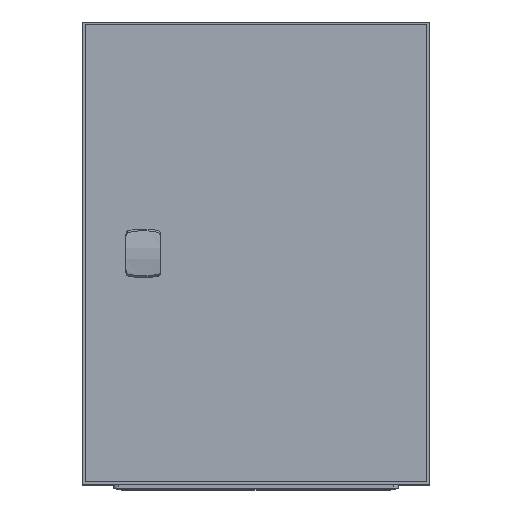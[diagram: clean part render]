
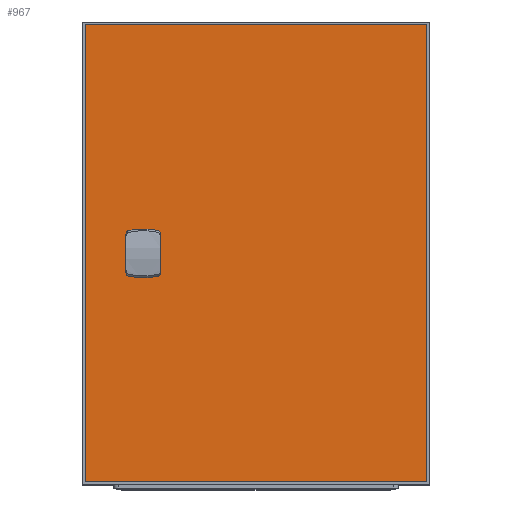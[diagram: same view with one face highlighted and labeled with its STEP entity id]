
A CAD part, top view. The second image highlights one B-rep face of the part: STEP entity #967.
In plain terms, the highlighted planar face has unit normal (0, 0, 1).
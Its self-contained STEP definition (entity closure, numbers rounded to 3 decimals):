
#967 = ADVANCED_FACE( '', ( #2032, #2033 ), #2034, .F. );
#2032 = FACE_BOUND( '', #3228, .T. );
#2033 = FACE_OUTER_BOUND( '', #3229, .T. );
#2034 = PLANE( '', #3230 );
#3228 = EDGE_LOOP( '', ( #5522, #5523, #5524, #5525, #5526, #5527, #5528, #5529, #5530, #5531, #5532, #5533, #5534, #5535, #5536, #5537 ) );
#3229 = EDGE_LOOP( '', ( #5538, #5539, #5540, #5541 ) );
#3230 = AXIS2_PLACEMENT_3D( '', #5542, #5543, #5544 );
#5522 = ORIENTED_EDGE( '', *, *, #6841, .F. );
#5523 = ORIENTED_EDGE( '', *, *, #7218, .F. );
#5524 = ORIENTED_EDGE( '', *, *, #7401, .F. );
#5525 = ORIENTED_EDGE( '', *, *, #7402, .F. );
#5526 = ORIENTED_EDGE( '', *, *, #7403, .F. );
#5527 = ORIENTED_EDGE( '', *, *, #6834, .F. );
#5528 = ORIENTED_EDGE( '', *, *, #7091, .F. );
#5529 = ORIENTED_EDGE( '', *, *, #7404, .F. );
#5530 = ORIENTED_EDGE( '', *, *, #7115, .F. );
#5531 = ORIENTED_EDGE( '', *, *, #7082, .F. );
#5532 = ORIENTED_EDGE( '', *, *, #7405, .F. );
#5533 = ORIENTED_EDGE( '', *, *, #7122, .F. );
#5534 = ORIENTED_EDGE( '', *, *, #6846, .F. );
#5535 = ORIENTED_EDGE( '', *, *, #7406, .F. );
#5536 = ORIENTED_EDGE( '', *, *, #7407, .F. );
#5537 = ORIENTED_EDGE( '', *, *, #7408, .F. );
#5538 = ORIENTED_EDGE( '', *, *, #7099, .T. );
#5539 = ORIENTED_EDGE( '', *, *, #7396, .F. );
#5540 = ORIENTED_EDGE( '', *, *, #7088, .F. );
#5541 = ORIENTED_EDGE( '', *, *, #7326, .T. );
#5542 = CARTESIAN_POINT( '', ( -147.5, 197.5, 0. ) );
#5543 = DIRECTION( '', ( 0., 0., -1. ) );
#5544 = DIRECTION( '', ( -1., 0., 0. ) );
#6834 = EDGE_CURVE( '', #8143, #8144, #8145, .T. );
#6841 = EDGE_CURVE( '', #8155, #8156, #8157, .T. );
#6846 = EDGE_CURVE( '', #8164, #8165, #8166, .T. );
#7082 = EDGE_CURVE( '', #8538, #8539, #8540, .T. );
#7088 = EDGE_CURVE( '', #8547, #8549, #8550, .T. );
#7091 = EDGE_CURVE( '', #8553, #8143, #8554, .T. );
#7099 = EDGE_CURVE( '', #8561, #8563, #8565, .T. );
#7115 = EDGE_CURVE( '', #8539, #8587, #8588, .T. );
#7122 = EDGE_CURVE( '', #8165, #8598, #8599, .T. );
#7218 = EDGE_CURVE( '', #8738, #8155, #8739, .T. );
#7326 = EDGE_CURVE( '', #8547, #8561, #8883, .T. );
#7396 = EDGE_CURVE( '', #8549, #8563, #8972, .T. );
#7401 = EDGE_CURVE( '', #8977, #8738, #8978, .T. );
#7402 = EDGE_CURVE( '', #8979, #8977, #8980, .T. );
#7403 = EDGE_CURVE( '', #8144, #8979, #8981, .T. );
#7404 = EDGE_CURVE( '', #8587, #8553, #8982, .T. );
#7405 = EDGE_CURVE( '', #8598, #8538, #8983, .T. );
#7406 = EDGE_CURVE( '', #8984, #8164, #8985, .T. );
#7407 = EDGE_CURVE( '', #8986, #8984, #8987, .T. );
#7408 = EDGE_CURVE( '', #8156, #8986, #8988, .T. );
#8143 = VERTEX_POINT( '', #9962 );
#8144 = VERTEX_POINT( '', #9963 );
#8145 = CIRCLE( '', #9964, 1.25 );
#8155 = VERTEX_POINT( '', #9976 );
#8156 = VERTEX_POINT( '', #9977 );
#8157 = CIRCLE( '', #9978, 11.3 );
#8164 = VERTEX_POINT( '', #9987 );
#8165 = VERTEX_POINT( '', #9988 );
#8166 = LINE( '', #9989, #9990 );
#8538 = VERTEX_POINT( '', #10509 );
#8539 = VERTEX_POINT( '', #10510 );
#8540 = LINE( '', #10511, #10512 );
#8547 = VERTEX_POINT( '', #10522 );
#8549 = VERTEX_POINT( '', #10525 );
#8550 = LINE( '', #10526, #10527 );
#8553 = VERTEX_POINT( '', #10531 );
#8554 = LINE( '', #10532, #10533 );
#8561 = VERTEX_POINT( '', #10543 );
#8563 = VERTEX_POINT( '', #10546 );
#8565 = LINE( '', #10549, #10550 );
#8587 = VERTEX_POINT( '', #10579 );
#8588 = CIRCLE( '', #10580, 11.3 );
#8598 = VERTEX_POINT( '', #10591 );
#8599 = LINE( '', #10592, #10593 );
#8738 = VERTEX_POINT( '', #10816 );
#8739 = LINE( '', #10817, #10818 );
#8883 = LINE( '', #11027, #11028 );
#8972 = LINE( '', #11145, #11146 );
#8977 = VERTEX_POINT( '', #11153 );
#8978 = CIRCLE( '', #11154, 11.3 );
#8979 = VERTEX_POINT( '', #11155 );
#8980 = LINE( '', #11156, #11157 );
#8981 = LINE( '', #11158, #11159 );
#8982 = LINE( '', #11160, #11161 );
#8983 = CIRCLE( '', #11162, 11.3 );
#8984 = VERTEX_POINT( '', #11163 );
#8985 = CIRCLE( '', #11164, 1.25 );
#8986 = VERTEX_POINT( '', #11165 );
#8987 = LINE( '', #11166, #11167 );
#8988 = LINE( '', #11168, #11169 );
#9962 = CARTESIAN_POINT( '', ( -96.25, 10.75, 0. ) );
#9963 = CARTESIAN_POINT( '', ( -98.75, 10.75, 0. ) );
#9964 = AXIS2_PLACEMENT_3D( '', #11833, #11834, #11835 );
#9976 = CARTESIAN_POINT( '', ( -107.65, -4.967, 0. ) );
#9977 = CARTESIAN_POINT( '', ( -102.467, -10.15, 0. ) );
#9978 = AXIS2_PLACEMENT_3D( '', #11844, #11845, #11846 );
#9987 = CARTESIAN_POINT( '', ( -96.25, -10.75, 0. ) );
#9988 = CARTESIAN_POINT( '', ( -96.25, -10.15, 0. ) );
#9989 = CARTESIAN_POINT( '', ( -96.25, -10.75, 0. ) );
#9990 = VECTOR( '', #11852, 1000. );
#10509 = CARTESIAN_POINT( '', ( -87.35, -4.967, 0. ) );
#10510 = CARTESIAN_POINT( '', ( -87.35, 4.967, 0. ) );
#10511 = CARTESIAN_POINT( '', ( -87.35, -4.967, 0. ) );
#10512 = VECTOR( '', #12156, 1000. );
#10522 = CARTESIAN_POINT( '', ( -147.5, 197.5, 0. ) );
#10525 = CARTESIAN_POINT( '', ( 147.5, 197.5, 0. ) );
#10526 = CARTESIAN_POINT( '', ( -147.5, 197.5, 0. ) );
#10527 = VECTOR( '', #12161, 1000. );
#10531 = CARTESIAN_POINT( '', ( -96.25, 10.15, 0. ) );
#10532 = CARTESIAN_POINT( '', ( -96.25, 10.15, 0. ) );
#10533 = VECTOR( '', #12163, 1000. );
#10543 = CARTESIAN_POINT( '', ( -147.5, -197.5, 0. ) );
#10546 = CARTESIAN_POINT( '', ( 147.5, -197.5, 0. ) );
#10549 = CARTESIAN_POINT( '', ( -147.5, -197.5, 0. ) );
#10550 = VECTOR( '', #12169, 1000. );
#10579 = CARTESIAN_POINT( '', ( -92.533, 10.15, 0. ) );
#10580 = AXIS2_PLACEMENT_3D( '', #12186, #12187, #12188 );
#10591 = CARTESIAN_POINT( '', ( -92.533, -10.15, 0. ) );
#10592 = CARTESIAN_POINT( '', ( -96.25, -10.15, 0. ) );
#10593 = VECTOR( '', #12199, 1000. );
#10816 = CARTESIAN_POINT( '', ( -107.65, 4.967, 0. ) );
#10817 = CARTESIAN_POINT( '', ( -107.65, 4.967, 0. ) );
#10818 = VECTOR( '', #12311, 1000. );
#11027 = CARTESIAN_POINT( '', ( -147.5, 197.5, 0. ) );
#11028 = VECTOR( '', #12410, 1000. );
#11145 = CARTESIAN_POINT( '', ( 147.5, 197.5, 0. ) );
#11146 = VECTOR( '', #12475, 1000. );
#11153 = CARTESIAN_POINT( '', ( -102.467, 10.15, 0. ) );
#11154 = AXIS2_PLACEMENT_3D( '', #12478, #12479, #12480 );
#11155 = CARTESIAN_POINT( '', ( -98.75, 10.15, 0. ) );
#11156 = CARTESIAN_POINT( '', ( -98.75, 10.15, 0. ) );
#11157 = VECTOR( '', #12481, 1000. );
#11158 = CARTESIAN_POINT( '', ( -98.75, 10.75, 0. ) );
#11159 = VECTOR( '', #12482, 1000. );
#11160 = CARTESIAN_POINT( '', ( -92.533, 10.15, 0. ) );
#11161 = VECTOR( '', #12483, 1000. );
#11162 = AXIS2_PLACEMENT_3D( '', #12484, #12485, #12486 );
#11163 = CARTESIAN_POINT( '', ( -98.75, -10.75, 0. ) );
#11164 = AXIS2_PLACEMENT_3D( '', #12487, #12488, #12489 );
#11165 = CARTESIAN_POINT( '', ( -98.75, -10.15, 0. ) );
#11166 = CARTESIAN_POINT( '', ( -98.75, -10.15, 0. ) );
#11167 = VECTOR( '', #12490, 1000. );
#11168 = CARTESIAN_POINT( '', ( -102.467, -10.15, 0. ) );
#11169 = VECTOR( '', #12491, 1000. );
#11833 = CARTESIAN_POINT( '', ( -97.5, 10.75, 0. ) );
#11834 = DIRECTION( '', ( 0., 0., 1. ) );
#11835 = DIRECTION( '', ( 1., 0., 0. ) );
#11844 = CARTESIAN_POINT( '', ( -97.5, 0., 0. ) );
#11845 = DIRECTION( '', ( 0., 0., 1. ) );
#11846 = DIRECTION( '', ( 1., 0., 0. ) );
#11852 = DIRECTION( '', ( 0., 1., 0. ) );
#12156 = DIRECTION( '', ( 0., 1., 0. ) );
#12161 = DIRECTION( '', ( 1., 0., 0. ) );
#12163 = DIRECTION( '', ( 0., 1., 0. ) );
#12169 = DIRECTION( '', ( 1., 0., 0. ) );
#12186 = CARTESIAN_POINT( '', ( -97.5, 0., 0. ) );
#12187 = DIRECTION( '', ( 0., 0., 1. ) );
#12188 = DIRECTION( '', ( 1., 0., 0. ) );
#12199 = DIRECTION( '', ( 1., 0., 0. ) );
#12311 = DIRECTION( '', ( 0., -1., 0. ) );
#12410 = DIRECTION( '', ( 0., -1., 0. ) );
#12475 = DIRECTION( '', ( 0., -1., 0. ) );
#12478 = CARTESIAN_POINT( '', ( -97.5, 0., 0. ) );
#12479 = DIRECTION( '', ( 0., 0., 1. ) );
#12480 = DIRECTION( '', ( 1., 0., 0. ) );
#12481 = DIRECTION( '', ( -1., 0., 0. ) );
#12482 = DIRECTION( '', ( 0., -1., 0. ) );
#12483 = DIRECTION( '', ( -1., 0., 0. ) );
#12484 = CARTESIAN_POINT( '', ( -97.5, 0., 0. ) );
#12485 = DIRECTION( '', ( 0., 0., 1. ) );
#12486 = DIRECTION( '', ( 1., 0., 0. ) );
#12487 = CARTESIAN_POINT( '', ( -97.5, -10.75, 0. ) );
#12488 = DIRECTION( '', ( 0., 0., 1. ) );
#12489 = DIRECTION( '', ( 1., 0., 0. ) );
#12490 = DIRECTION( '', ( 0., -1., 0. ) );
#12491 = DIRECTION( '', ( 1., 0., 0. ) );
